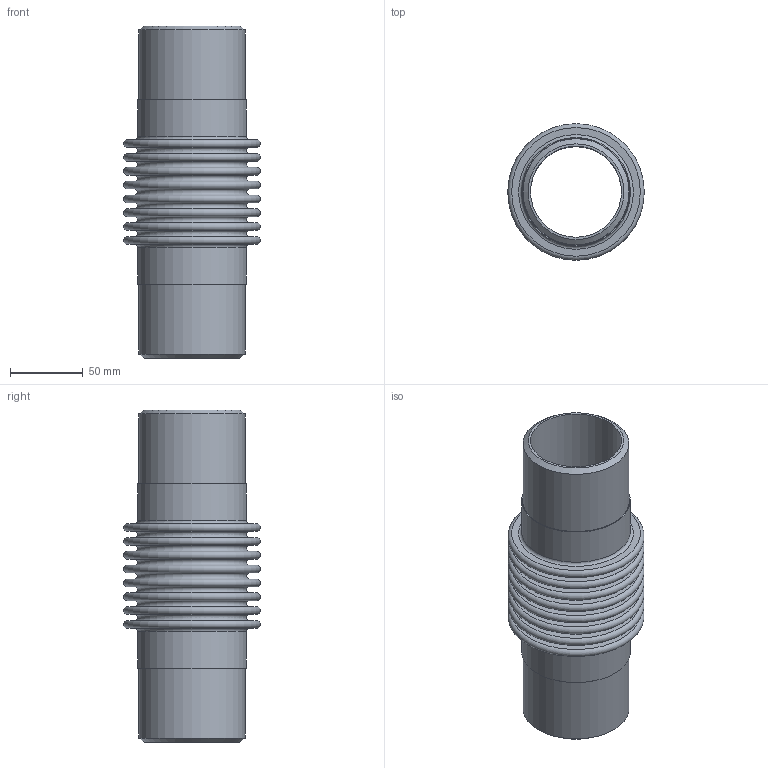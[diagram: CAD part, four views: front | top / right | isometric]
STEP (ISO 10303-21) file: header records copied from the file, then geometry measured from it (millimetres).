
FILE_DESCRIPTION(/* description */ (''),/* implementation_level */ '2;1');
FILE_NAME(/* name */ 'PIPE- 2.5 - 150 PSIG ASSEMBLY PART.stp',/* time_stamp */ '2026-07-24T15:29:59-05:00',/* author */ ('jorgef'),/* organization */ (''),/* preprocessor_version */ 'ST-DEVELOPER v20.1',/* originating_system */ 'Autodesk Inventor 2026',/* authorisation */ '');
FILE_SCHEMA (('AUTOMOTIVE_DESIGN { 1 0 10303 214 3 1 1 }'));
Length unit declared in the file: inch
Products named in the file (1): PIPE- 2.5 - 150 PSIG ASSEMBLY PART
Bounding box: 93.98 x 93.98 x 228.6 mm (x, y, z)
Volume: 204114.1 mm3; surface area: 195908.6 mm2
Topology: 3 solids, 3 shells, 82 faces, 132 edges, 88 vertices
Faces by surface type: plane 38, torus 34, cylinder 8, cone 2
Full cylindrical faces by diameter (mm): 62.713 x2, 73.025 x2, 73.66 x2, 74.879 x2
Entity records: 2113 total; most frequent: DIRECTION 420, CARTESIAN_POINT 303, ORIENTED_EDGE 264, AXIS2_PLACEMENT_3D 205, EDGE_CURVE 132, CIRCLE 122, EDGE_LOOP 120, VERTEX_POINT 88
